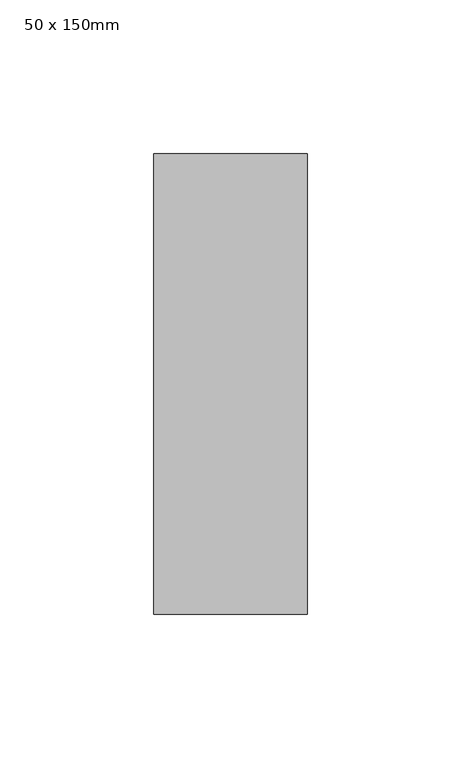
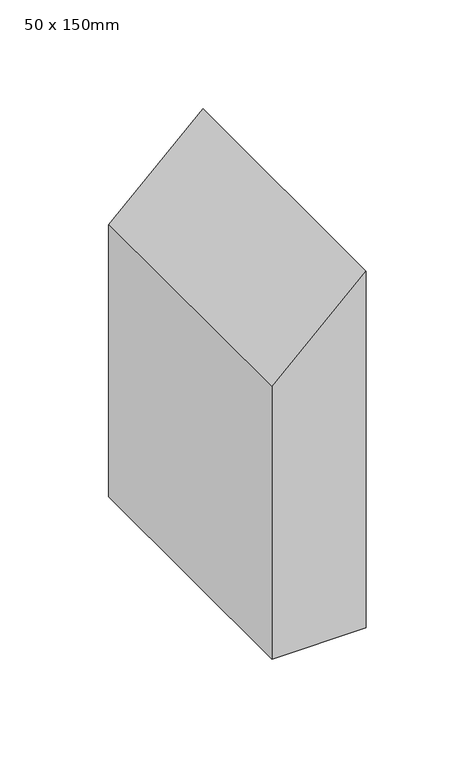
"""IFC4 building model written with IfcOpenShell, lengths in millimetres: member geometry, Прямоугольный импост : 50 x 150mm."""

from ifc_helpers import new_model, si_unit, frame, origin, place, context, project, spatial, polyline, outline, extrude, source, transform, mapped, element, save


def member_50_x_150mm_8af66de1(model_context):
    return source(origin(), model_context, "Body", "SweptSolid", [
        extrude(outline(polyline([(0.0, 0.0), (-47.316309, -50.0), (-200.0, -50.0), (-200.0, 0.0), (0.0, 0.0)])), frame((0.0, -75.0, 0.0), z_axis=(0.0, 1.0, 0.0), x_axis=(0.0, 0.0, 1.0)), (0.0, 0.0, 1.0), 150.0),
    ])


if __name__ == "__main__":
    model = new_model("IFC4")
    model_context = context("Model", 3, world=origin())
    ifc_project = project(units=[si_unit("LENGTHUNIT", "METRE", prefix="MILLI")], contexts=[model_context])
    site = spatial("IfcSite", under=ifc_project)
    building = spatial("IfcBuilding", under=site)
    placement = place(None, origin())
    member_50_x_150mm_shape = member_50_x_150mm_8af66de1(model_context)
    element("IfcMember", 1, ObjectType="Прямоугольный импост : 50 x 150mm", at=placement, inside=building, context=model_context, shape_type="MappedRepresentation", body=[
        mapped(member_50_x_150mm_shape, transform((0.0, 0.0, 0.0), x_axis=(1.0, 0.0, 0.0), y_axis=(0.0, 1.0, 0.0), z_axis=(0.0, 0.0, 1.0))),
    ])
    save(model, "model.ifc")
